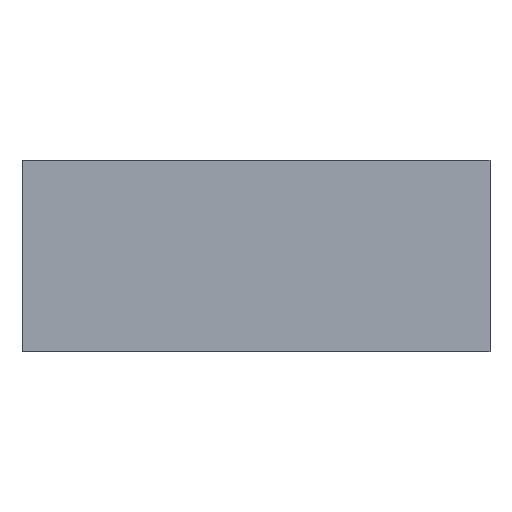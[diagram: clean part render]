
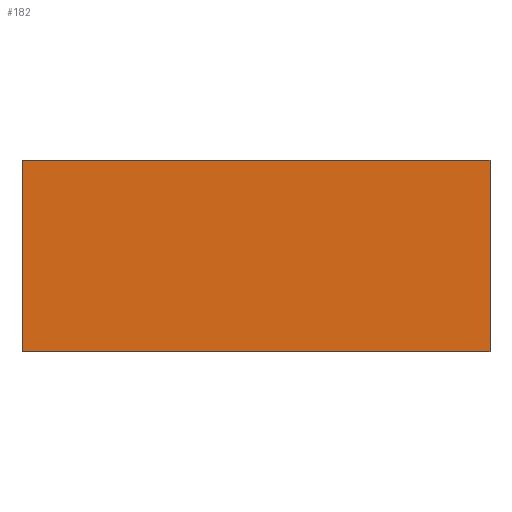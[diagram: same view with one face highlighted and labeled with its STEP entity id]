
A CAD part, left-side view. The second image highlights one B-rep face of the part: STEP entity #182.
In plain terms, the highlighted planar face has unit normal (-1, 0, 0).
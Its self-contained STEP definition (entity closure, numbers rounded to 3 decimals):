
#16=FACE_OUTER_BOUND('',#26,.T.);
#26=EDGE_LOOP('',(#127,#128,#129,#130));
#38=LINE('',#279,#62);
#39=LINE('',#282,#63);
#40=LINE('',#284,#64);
#41=LINE('',#285,#65);
#62=VECTOR('',#231,10.);
#63=VECTOR('',#234,10.);
#64=VECTOR('',#235,10.);
#65=VECTOR('',#236,10.);
#83=VERTEX_POINT('',#272);
#86=VERTEX_POINT('',#277);
#87=VERTEX_POINT('',#281);
#88=VERTEX_POINT('',#283);
#102=EDGE_CURVE('',#83,#86,#38,.T.);
#103=EDGE_CURVE('',#87,#83,#39,.T.);
#104=EDGE_CURVE('',#88,#86,#40,.T.);
#105=EDGE_CURVE('',#87,#88,#41,.T.);
#127=ORIENTED_EDGE('',*,*,#103,.T.);
#128=ORIENTED_EDGE('',*,*,#102,.T.);
#129=ORIENTED_EDGE('',*,*,#104,.F.);
#130=ORIENTED_EDGE('',*,*,#105,.F.);
#172=PLANE('',#215);
#182=ADVANCED_FACE('',(#16),#172,.T.);
#215=AXIS2_PLACEMENT_3D('',#280,#232,#233);
#231=DIRECTION('',(0.,0.,1.));
#232=DIRECTION('center_axis',(-1.,0.,0.));
#233=DIRECTION('ref_axis',(0.,-1.,0.));
#234=DIRECTION('',(0.,-1.,0.));
#235=DIRECTION('',(0.,-1.,0.));
#236=DIRECTION('',(0.,0.,1.));
#272=CARTESIAN_POINT('',(-47.,0.,0.));
#277=CARTESIAN_POINT('',(-47.,0.,8.));
#279=CARTESIAN_POINT('',(-47.,0.,0.));
#280=CARTESIAN_POINT('Origin',(-47.,19.5,0.));
#281=CARTESIAN_POINT('',(-47.,19.5,0.));
#282=CARTESIAN_POINT('',(-47.,19.5,0.));
#283=CARTESIAN_POINT('',(-47.,19.5,8.));
#284=CARTESIAN_POINT('',(-47.,19.5,8.));
#285=CARTESIAN_POINT('',(-47.,19.5,0.));
